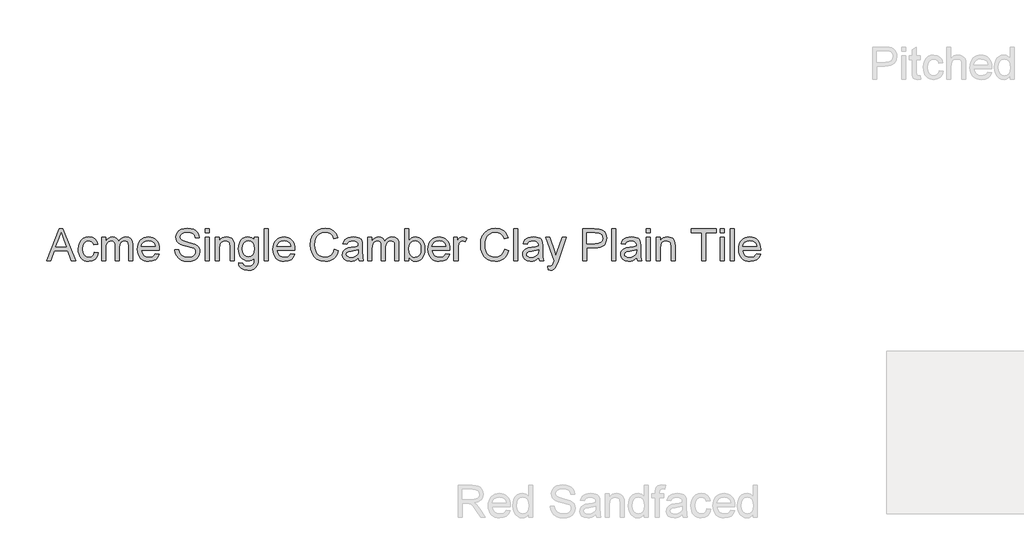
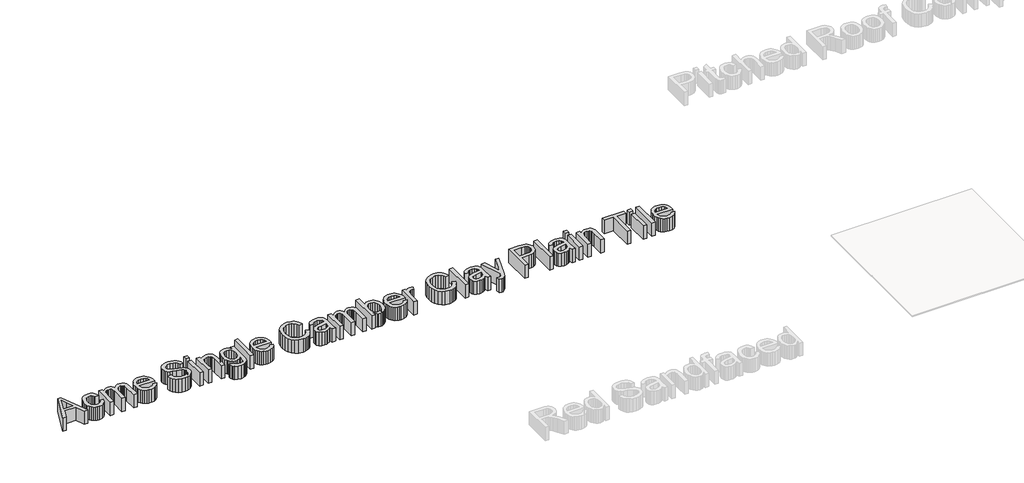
# One storey, part 5 of 6: 1 proxy.
"""IFC4 building model written with IfcOpenShell, lengths in millimetres."""

from ifc_helpers import new_model, si_unit, frame, origin, place, context, project, spatial, polyline, outline, extrude, element, save

model = new_model("IFC4")

# Units and contexts
model_context = context("Model", 3, world=origin())
ifc_project = project(units=[si_unit("LENGTHUNIT", "METRE", prefix="MILLI")], contexts=[model_context])

# Site, building, storey
site = spatial("IfcSite", under=ifc_project)
building = spatial("IfcBuilding", under=site)
storey = spatial("IfcBuildingStorey", under=building, Name="Marley Clay Plain Tile", Elevation=3000.0)

# Proxy
placement = place(None, origin())
element("IfcBuildingElementProxy", 1, Name="600mm Arial", ObjectType="600mm Arial", at=placement, inside=storey, context=model_context, shape_type="SweptSolid", body=[
    extrude(outline(polyline([(-18518.8331369, 5927.1579856), (-18400.924483, 6222.542601), (-18369.4821753, 6222.542601), (-18251.5735215, 5927.1579856), (-18290.5879446, 5927.1579856), (-18324.4100599, 6019.4656779), (-18446.0687138, 6019.4656779), (-18479.8187138, 5927.1579856), (-18518.8331369, 5927.1579856)]), holes=[polyline([(-18432.5110215, 6056.3887548), (-18337.8956369, 6056.3887548), (-18364.5062138, 6129.0089471), (-18385.2033292, 6185.619524), (-18403.5927523, 6135.355101), (-18432.5110215, 6056.3887548)])]), frame((0.0, 0.0, 3000.0), z_axis=(0.0, 0.0, 1.0), x_axis=(1.0, 0.0, 0.0)), (0.0, 0.0, 1.0), 150.0),
    extrude(outline(polyline([(-18078.2802523, 6005.619524), (-18041.3571753, 6001.0041394), (-18051.6516465, 5968.1645961), (-18070.9965984, 5943.3478894), (-18097.5711176, 5927.7439231), (-18129.5542907, 5922.542601), (-18150.2626741, 5924.3567536), (-18168.8301321, 5929.7992115), (-18185.2566645, 5938.8699748), (-18199.5422715, 5951.5690433), (-18211.1055227, 5967.6575348), (-18219.3649878, 5986.8965673), (-18224.3206669, 6009.2861406), (-18225.9725599, 6034.8262548), (-18223.1510455, 6067.6838269), (-18214.6865023, 6096.1603894), (-18200.4437138, 6119.1561827), (-18180.2874638, 6135.5714471), (-18156.1738821, 6145.4151971), (-18130.0590984, 6148.6964471), (-18098.8601801, 6144.1892356), (-18073.9172715, 6130.667601), (-18056.0236417, 6108.8526971), (-18045.9725599, 6079.4656779), (-18082.8956369, 6074.8502933), (-18089.5933532, 6090.9590673), (-18100.0230407, 6102.5065433), (-18113.6077763, 6109.4566635), (-18129.7706369, 6111.7733702), (-18153.6318148, 6107.2120721), (-18172.5711176, 6093.5281779), (-18184.9298917, 6069.9825048), (-18189.049483, 6035.8358702), (-18185.0200359, 6001.2295), (-18172.9316946, 5977.6026971), (-18154.3349398, 5963.9999327), (-18130.7802523, 5959.4656779), (-18111.6606609, 5962.2962067), (-18095.9845792, 5970.7877933), (-18084.581334, 5985.1567836), (-18078.2802523, 6005.619524)])), frame((0.0, 0.0, 3000.0), z_axis=(0.0, 0.0, 1.0), x_axis=(1.0, 0.0, 0.0)), (0.0, 0.0, 1.0), 150.0),
    extrude(outline(polyline([(-18009.049483, 5927.1579856), (-18009.049483, 6144.0810625), (-17972.1264061, 6144.0810625), (-17972.1264061, 6108.3839471), (-17961.0206369, 6124.7811827), (-17946.7417907, 6137.6267356), (-17929.7766465, 6145.9290192), (-17910.611983, 6148.6964471), (-17890.0771273, 6145.8749327), (-17873.6167907, 6137.4103894), (-17861.3211176, 6123.8617115), (-17853.2802523, 6105.7877933), (-17839.8217186, 6124.5603293), (-17824.4701561, 6137.9692836), (-17807.2255648, 6146.0146562), (-17788.0879446, 6148.6964471), (-17760.3325359, 6144.2343077), (-17739.8066946, 6130.8478894), (-17727.1234013, 6108.1766154), (-17722.8956369, 6075.8599086), (-17722.8956369, 5927.1579856), (-17759.8187138, 5927.1579856), (-17759.8187138, 6059.994524), (-17763.2441946, 6090.823851), (-17768.0578965, 6099.3244519), (-17775.6480407, 6106.0041394), (-17785.4106609, 6110.3310625), (-17796.7417907, 6111.7733702), (-17816.7447955, 6108.0774567), (-17833.0518869, 6096.9897163), (-17843.8962378, 6077.7529375), (-17847.5110215, 6049.6099086), (-17847.5110215, 5927.1579856), (-17884.4340984, 5927.1579856), (-17884.4340984, 6064.105101), (-17886.5705167, 6084.9825048), (-17892.9797715, 6099.8743317), (-17904.2568148, 6108.7986106), (-17920.9965984, 6111.7733702), (-17935.221358, 6109.7901971), (-17948.3283292, 6103.8406779), (-17959.1456369, 6094.0690433), (-17966.5014061, 6080.619524), (-17970.7201561, 6061.9596683), (-17972.1264061, 6036.557024), (-17972.1264061, 5927.1579856), (-18009.049483, 5927.1579856)])), frame((0.0, 0.0, 3000.0), z_axis=(0.0, 0.0, 1.0), x_axis=(1.0, 0.0, 0.0)), (0.0, 0.0, 1.0), 150.0),
    extrude(outline(polyline([(-17515.6360215, 5991.7733702), (-17479.4340984, 5987.1579856), (-17492.4779686, 5959.8803413), (-17513.2922715, 5939.4897163), (-17541.4082571, 5926.7793798), (-17576.3571753, 5922.542601), (-17599.2673316, 5924.3702752), (-17619.6804926, 5929.8532981), (-17637.5966585, 5938.9916695), (-17653.0158292, 5951.7853894), (-17665.4151681, 5967.8783882), (-17674.2718388, 5986.9145961), (-17679.5858412, 6008.8940132), (-17681.3571753, 6033.8166394), (-17679.5678124, 6059.5843678), (-17674.1997234, 6082.2962067), (-17665.2529085, 6101.9521562), (-17652.7273676, 6118.5522163), (-17637.3487619, 6131.7403173), (-17619.8427523, 6141.1603894), (-17600.2093388, 6146.8124327), (-17578.4485215, 6148.6964471), (-17557.3885756, 6146.8169399), (-17538.3433532, 6141.1784183), (-17521.3128544, 6131.7808822), (-17506.2970792, 6118.6243317), (-17494.0397174, 6102.0603293), (-17485.284459, 6082.4404375), (-17480.0313039, 6059.7646562), (-17478.2802523, 6034.0329856), (-17478.4965984, 6024.0810625), (-17644.4340984, 6024.0810625), (-17638.0428724, 5996.4428413), (-17623.1961176, 5976.1243317), (-17601.768834, 5963.6303413), (-17575.6360215, 5959.4656779), (-17555.9845792, 5961.3947644), (-17539.4340984, 5967.182024), (-17525.9845792, 5977.1880336), (-17515.6360215, 5991.7733702)]), holes=[polyline([(-17644.4340984, 6061.0041394), (-17515.2033292, 6061.0041394), (-17520.1973196, 6080.511351), (-17529.986983, 6094.4656779), (-17551.5134253, 6107.4464471), (-17578.5927523, 6111.7733702), (-17603.4815744, 6108.3208461), (-17624.0615023, 6097.963274), (-17638.3673917, 6081.8184423), (-17644.4340984, 6061.0041394)])]), frame((0.0, 0.0, 3000.0), z_axis=(0.0, 0.0, 1.0), x_axis=(1.0, 0.0, 0.0)), (0.0, 0.0, 1.0), 150.0),
    extrude(outline(polyline([(-17335.2033292, 6028.6964471), (-17298.2802523, 6028.6964471), (-17294.0434734, 6008.2066635), (-17286.3812138, 5991.7373125), (-17274.4280888, 5978.666399), (-17257.3187138, 5968.3719279), (-17236.4052523, 5961.6922404), (-17213.0398676, 5959.4656779), (-17192.4689542, 5961.151375), (-17174.4581369, 5966.2084663), (-17159.8637859, 5974.213274), (-17149.5422715, 5984.7421202), (-17143.4034494, 5996.8304615), (-17141.3571753, 6009.5137548), (-17142.8896273, 6021.8725288), (-17147.486983, 6032.5546202), (-17156.8259253, 6041.6682019), (-17172.5831369, 6049.3214471), (-17226.3451561, 6063.4200048), (-17261.6366224, 6072.7499327), (-17284.2177523, 6081.6291394), (-17302.5981609, 6094.0510144), (-17315.6240023, 6109.105101), (-17323.3854205, 6126.4668798), (-17325.9725599, 6145.8118317), (-17322.7724398, 6167.4374327), (-17313.1720792, 6187.6026971), (-17297.4238821, 6204.6940433), (-17275.7802523, 6217.0978894), (-17249.8006849, 6224.6429615), (-17221.0446753, 6227.1579856), (-17189.8908292, 6224.525774), (-17162.6312138, 6216.6291394), (-17140.2393869, 6203.6303413), (-17123.6889061, 6185.6916394), (-17113.2141465, 6163.9308221), (-17109.049483, 6139.4656779), (-17145.9725599, 6139.4656779), (-17152.7514061, 6161.4969279), (-17166.8860215, 6177.3983702), (-17188.971358, 6187.025774), (-17219.6023676, 6190.2349086), (-17250.9545311, 6187.0618317), (-17272.4629446, 6177.542601), (-17284.9028484, 6163.5341875), (-17289.049483, 6146.8935625), (-17286.1107811, 6132.7048606), (-17277.2946753, 6121.292601), (-17256.4533292, 6111.088274), (-17217.0062138, 6100.667601), (-17151.6696753, 6082.1339471), (-17130.6209974, 6068.7385144), (-17115.9365023, 6052.2060625), (-17107.3096994, 6032.7168798), (-17104.4340984, 6010.4512548), (-17107.7423917, 5987.6898365), (-17117.6672715, 5966.2805817), (-17133.8030888, 5947.855101), (-17155.7441946, 5934.0450048), (-17182.1294109, 5925.4182019), (-17211.5975599, 5922.542601), (-17247.7724398, 5925.6435625), (-17277.5470792, 5934.9464471), (-17301.2640263, 5950.4873125), (-17319.2658292, 5972.3022163), (-17330.8223196, 5998.8767356), (-17335.2033292, 6028.6964471)])), frame((0.0, 0.0, 3000.0), z_axis=(0.0, 0.0, 1.0), x_axis=(1.0, 0.0, 0.0)), (0.0, 0.0, 1.0), 150.0),
    extrude(outline(polyline([(-17053.6648676, 5927.1579856), (-17053.6648676, 6144.0810625), (-17016.7417907, 6144.0810625), (-17016.7417907, 5927.1579856), (-17053.6648676, 5927.1579856)])), frame((0.0, 0.0, 3000.0), z_axis=(0.0, 0.0, 1.0), x_axis=(1.0, 0.0, 0.0)), (0.0, 0.0, 1.0), 150.0),
    extrude(outline(polyline([(-17053.6648676, 6185.619524), (-17053.6648676, 6222.542601), (-17016.7417907, 6222.542601), (-17016.7417907, 6185.619524), (-17053.6648676, 6185.619524)])), frame((0.0, 0.0, 3000.0), z_axis=(0.0, 0.0, 1.0), x_axis=(1.0, 0.0, 0.0)), (0.0, 0.0, 1.0), 150.0),
    extrude(outline(polyline([(-16961.3571753, 5927.1579856), (-16961.3571753, 6144.0810625), (-16924.4340984, 6144.0810625), (-16924.4340984, 6113.792601), (-16911.6065744, 6129.0630336), (-16896.2009253, 6139.9704856), (-16878.2171513, 6146.5149567), (-16857.6552523, 6148.6964471), (-16839.4551321, 6146.9386346), (-16822.7874638, 6141.6651971), (-16808.8872234, 6133.5341875), (-16798.9893869, 6123.2036586), (-16787.9196753, 6096.0522163), (-16785.9725599, 6060.355101), (-16785.9725599, 5927.1579856), (-16822.8956369, 5927.1579856), (-16822.8956369, 6055.3791394), (-16827.1504446, 6088.0474086), (-16833.0368628, 6097.7739711), (-16842.1865023, 6105.3190433), (-16853.9142667, 6110.1597885), (-16867.5350599, 6111.7733702), (-16889.1606609, 6108.1495721), (-16907.5951561, 6097.2781779), (-16914.9621934, 6088.4034784), (-16920.2243628, 6076.2745721), (-16924.4340984, 6042.2541394), (-16924.4340984, 5927.1579856), (-16961.3571753, 5927.1579856)])), frame((0.0, 0.0, 3000.0), z_axis=(0.0, 0.0, 1.0), x_axis=(1.0, 0.0, 0.0)), (0.0, 0.0, 1.0), 150.0),
    extrude(outline(polyline([(-16744.4340984, 5908.6964471), (-16707.5110215, 5904.0810625), (-16703.4365023, 5892.542601), (-16695.5398676, 5884.6099086), (-16680.0170311, 5878.4440433), (-16659.6985215, 5876.3887548), (-16638.0278484, 5878.714476), (-16621.9100599, 5885.6916394), (-16610.7321753, 5896.869524), (-16603.8812138, 5911.7974086), (-16601.3571753, 5954.8502933), (-16613.643834, 5942.7349086), (-16627.3547715, 5934.0810625), (-16642.4899878, 5928.8887548), (-16659.049483, 5927.1579856), (-16679.2936237, 5929.1727091), (-16697.1173917, 5935.2168798), (-16712.5207871, 5945.2904976), (-16725.5038099, 5959.3935625), (-16735.8050419, 5976.3136346), (-16743.1630648, 5994.838274), (-16749.049483, 6036.7012548), (-16746.4082571, 6066.5119519), (-16738.4845792, 6093.9248125), (-16725.5578965, 6117.1549808), (-16707.9076561, 6134.417601), (-16686.1378244, 6145.1267356), (-16660.8523676, 6148.6964471), (-16643.5852402, 6146.6772163), (-16627.9136657, 6140.619524), (-16613.8376441, 6130.5233702), (-16601.3571753, 6116.3887548), (-16601.3571753, 6144.0810625), (-16564.4340984, 6144.0810625), (-16564.4340984, 5956.7974086), (-16566.9581369, 5913.5552211), (-16574.5302523, 5885.0786586), (-16587.5741224, 5866.1934423), (-16606.5134253, 5851.7252933), (-16630.9334974, 5842.5305817), (-16660.4196753, 5839.4656779), (-16694.7736417, 5843.7835865), (-16721.8259253, 5856.7373125), (-16732.014477, 5866.4616214), (-16739.1786898, 5878.3629135), (-16743.3185636, 5892.4411887), (-16744.4340984, 5908.6964471)]), holes=[polyline([(-16712.1264061, 6039.2252933), (-16708.1871032, 6005.3581058), (-16696.3691946, 5982.073851), (-16678.6017667, 5968.5792596), (-16656.8139061, 5964.0810625), (-16635.1883051, 5968.5522163), (-16617.330733, 5981.9656779), (-16605.3505648, 6004.9524567), (-16601.3571753, 6038.1435625), (-16605.4677523, 6070.1537788), (-16617.799483, 6093.2036586), (-16635.9184734, 6107.1309423), (-16657.3908292, 6111.7733702), (-16678.4755648, 6107.2030577), (-16696.1528484, 6093.4921202), (-16708.1330167, 6070.7847885), (-16712.1264061, 6039.2252933)])]), frame((0.0, 0.0, 3000.0), z_axis=(0.0, 0.0, 1.0), x_axis=(1.0, 0.0, 0.0)), (0.0, 0.0, 1.0), 150.0),
    extrude(outline(polyline([(-16509.049483, 5927.1579856), (-16509.049483, 6222.542601), (-16472.1264061, 6222.542601), (-16472.1264061, 5927.1579856), (-16509.049483, 5927.1579856)])), frame((0.0, 0.0, 3000.0), z_axis=(0.0, 0.0, 1.0), x_axis=(1.0, 0.0, 0.0)), (0.0, 0.0, 1.0), 150.0),
    extrude(outline(polyline([(-16264.8667907, 5991.7733702), (-16228.6648676, 5987.1579856), (-16241.7087378, 5959.8803413), (-16262.5230407, 5939.4897163), (-16290.6390263, 5926.7793798), (-16325.5879446, 5922.542601), (-16348.4981008, 5924.3702752), (-16368.9112619, 5929.8532981), (-16386.8274277, 5938.9916695), (-16402.2465984, 5951.7853894), (-16414.6459374, 5967.8783882), (-16423.502608, 5986.9145961), (-16428.8166104, 6008.8940132), (-16430.5879446, 6033.8166394), (-16428.7985816, 6059.5843678), (-16423.4304926, 6082.2962067), (-16414.4836777, 6101.9521562), (-16401.9581369, 6118.5522163), (-16386.5795311, 6131.7403173), (-16369.0735215, 6141.1603894), (-16349.440108, 6146.8124327), (-16327.6792907, 6148.6964471), (-16306.6193448, 6146.8169399), (-16287.5741224, 6141.1784183), (-16270.5436237, 6131.7808822), (-16255.5278484, 6118.6243317), (-16243.2704866, 6102.0603293), (-16234.5152282, 6082.4404375), (-16229.2620732, 6059.7646562), (-16227.5110215, 6034.0329856), (-16227.7273676, 6024.0810625), (-16393.6648676, 6024.0810625), (-16387.2736417, 5996.4428413), (-16372.4268869, 5976.1243317), (-16350.9996032, 5963.6303413), (-16324.8667907, 5959.4656779), (-16305.2153484, 5961.3947644), (-16288.6648676, 5967.182024), (-16275.2153484, 5977.1880336), (-16264.8667907, 5991.7733702)]), holes=[polyline([(-16393.6648676, 6061.0041394), (-16264.4340984, 6061.0041394), (-16269.4280888, 6080.511351), (-16279.2177523, 6094.4656779), (-16300.7441946, 6107.4464471), (-16327.8235215, 6111.7733702), (-16352.7123436, 6108.3208461), (-16373.2922715, 6097.963274), (-16387.5981609, 6081.8184423), (-16393.6648676, 6061.0041394)])]), frame((0.0, 0.0, 3000.0), z_axis=(0.0, 0.0, 1.0), x_axis=(1.0, 0.0, 0.0)), (0.0, 0.0, 1.0), 150.0),
    extrude(outline(polyline([(-15862.8956369, 6032.1579856), (-15825.9725599, 6022.6387548), (-15833.2787499, 5999.6767656), (-15843.0098196, 5979.6129135), (-15855.1657691, 5962.4471983), (-15869.7465984, 5948.1796202), (-15886.4232811, 5936.9634243), (-15904.8667907, 5928.9518558), (-15925.0771273, 5924.1449147), (-15947.0542907, 5922.542601), (-15989.8818148, 5927.3923606), (-16023.893233, 5941.9416394), (-16049.9629446, 5965.6856298), (-16068.9653484, 5998.119524), (-16080.5669109, 6036.2505336), (-16084.4340984, 6077.0858702), (-16080.0621032, 6120.1567836), (-16066.9461176, 6157.3502933), (-16045.7712378, 6187.4855096), (-16017.2225599, 6209.3815433), (-15983.3643869, 6222.713875), (-15946.2610215, 6227.1579856), (-15905.7772474, 6221.4067836), (-15888.1653184, 6214.2177812), (-15872.3066946, 6204.1531779), (-15858.4627943, 6191.478899), (-15846.8950359, 6176.4608702), (-15830.5879446, 6139.3935625), (-15867.5110215, 6130.5954856), (-15880.3115023, 6157.5215673), (-15897.799483, 6175.9921202), (-15920.1913099, 6186.6742115), (-15947.7033292, 6190.2349086), (-15979.4160696, 6186.2865913), (-16005.4677523, 6174.4416394), (-16025.2363821, 6155.9440433), (-16038.0999638, 6132.0377933), (-16045.1582571, 6105.0125529), (-16047.5110215, 6077.1579856), (-16044.7255648, 6043.0474086), (-16036.3691946, 6013.5522163), (-16022.1264061, 5989.7992115), (-16001.6816946, 5972.9151971), (-15977.1714782, 5962.8280577), (-15950.7321753, 5959.4656779), (-15919.9118628, 5964.0450048), (-15894.2297715, 5977.7829856), (-15874.8397474, 6000.5353894), (-15862.8956369, 6032.1579856)])), frame((0.0, 0.0, 3000.0), z_axis=(0.0, 0.0, 1.0), x_axis=(1.0, 0.0, 0.0)), (0.0, 0.0, 1.0), 150.0),
    extrude(outline(polyline([(-15641.3571753, 5954.8502933), (-15658.9984013, 5939.7240913), (-15677.1624638, 5929.8262548), (-15696.2640263, 5924.3635144), (-15716.7177523, 5922.542601), (-15747.5741224, 5926.9236106), (-15770.3355407, 5940.0666394), (-15784.3709974, 5960.0245721), (-15789.049483, 5984.8502933), (-15787.2826561, 6000.1567836), (-15781.9821753, 6014.057024), (-15773.8060936, 6025.9560625), (-15763.4124638, 6035.2589471), (-15737.5590984, 6047.3743317), (-15705.611983, 6052.9272163), (-15667.8595792, 6058.7685625), (-15641.5735215, 6065.619524), (-15641.3571753, 6073.8406779), (-15643.8992426, 6090.3190433), (-15651.5254446, 6101.1002933), (-15668.580733, 6109.105101), (-15692.3427523, 6111.7733702), (-15714.3379446, 6109.9975288), (-15729.6985215, 6104.6700048), (-15740.1732811, 6094.8172404), (-15747.5110215, 6079.4656779), (-15784.4340984, 6084.0810625), (-15778.0248436, 6104.2733702), (-15768.4605407, 6120.1387548), (-15754.8487619, 6132.2721683), (-15736.2970792, 6141.2685625), (-15713.6077763, 6146.839476), (-15687.5831369, 6148.6964471), (-15662.6221994, 6147.0558221), (-15642.8355407, 6142.1339471), (-15627.9166705, 6134.7331058), (-15617.5590984, 6125.6555817), (-15610.690108, 6114.432625), (-15606.236983, 6100.5954856), (-15604.4340984, 6068.2877933), (-15604.4340984, 6022.3502933), (-15602.5590984, 5958.2036586), (-15595.2033292, 5927.1579856), (-15632.1264061, 5927.1579856), (-15641.3571753, 5954.8502933)]), holes=[polyline([(-15641.3571753, 6028.6964471), (-15700.924483, 6017.3743317), (-15732.6913099, 6011.3887548), (-15747.0783292, 6001.6531779), (-15752.1264061, 5987.4464471), (-15749.3770071, 5976.4668798), (-15741.1288099, 5967.4704856), (-15727.5621032, 5961.4668798), (-15708.8571753, 5959.4656779), (-15689.0254446, 5961.6742115), (-15671.5014061, 5968.2998125), (-15657.2946753, 5978.0624327), (-15647.4148676, 5989.682024), (-15643.033858, 6001.6531779), (-15641.5735215, 6018.2397163), (-15641.3571753, 6028.6964471)])]), frame((0.0, 0.0, 3000.0), z_axis=(0.0, 0.0, 1.0), x_axis=(1.0, 0.0, 0.0)), (0.0, 0.0, 1.0), 150.0),
    extrude(outline(polyline([(-15553.6648676, 5927.1579856), (-15553.6648676, 6144.0810625), (-15516.7417907, 6144.0810625), (-15516.7417907, 6108.3839471), (-15505.6360215, 6124.7811827), (-15491.3571753, 6137.6267356), (-15474.3920311, 6145.9290192), (-15455.2273676, 6148.6964471), (-15434.6925119, 6145.8749327), (-15418.2321753, 6137.4103894), (-15405.9365023, 6123.8617115), (-15397.8956369, 6105.7877933), (-15384.4371032, 6124.5603293), (-15369.0855407, 6137.9692836), (-15351.8409494, 6146.0146562), (-15332.7033292, 6148.6964471), (-15304.9479205, 6144.2343077), (-15284.4220792, 6130.8478894), (-15271.7387859, 6108.1766154), (-15267.5110215, 6075.8599086), (-15267.5110215, 5927.1579856), (-15304.4340984, 5927.1579856), (-15304.4340984, 6059.994524), (-15307.8595792, 6090.823851), (-15312.6732811, 6099.3244519), (-15320.2634253, 6106.0041394), (-15330.0260455, 6110.3310625), (-15341.3571753, 6111.7733702), (-15361.3601801, 6108.0774567), (-15377.6672715, 6096.9897163), (-15388.5116224, 6077.7529375), (-15392.1264061, 6049.6099086), (-15392.1264061, 5927.1579856), (-15429.049483, 5927.1579856), (-15429.049483, 6064.105101), (-15431.1859013, 6084.9825048), (-15437.5951561, 6099.8743317), (-15448.8721994, 6108.7986106), (-15465.611983, 6111.7733702), (-15479.8367426, 6109.7901971), (-15492.9437138, 6103.8406779), (-15503.7610215, 6094.0690433), (-15511.1167907, 6080.619524), (-15515.3355407, 6061.9596683), (-15516.7417907, 6036.557024), (-15516.7417907, 5927.1579856), (-15553.6648676, 5927.1579856)])), frame((0.0, 0.0, 3000.0), z_axis=(0.0, 0.0, 1.0), x_axis=(1.0, 0.0, 0.0)), (0.0, 0.0, 1.0), 150.0),
    extrude(outline(polyline([(-15175.2033292, 5927.1579856), (-15212.1264061, 5927.1579856), (-15212.1264061, 6222.542601), (-15175.2033292, 6222.542601), (-15175.2033292, 6112.9993317), (-15163.0609013, 6128.6168197), (-15149.3499638, 6139.7721683), (-15134.0705167, 6146.4653774), (-15117.2225599, 6148.6964471), (-15098.2021273, 6146.6862308), (-15080.2273676, 6140.6555817), (-15064.3259253, 6130.9831058), (-15051.5254446, 6118.0474086), (-15041.4923917, 6101.9746923), (-15033.893233, 6082.8911586), (-15029.1065744, 6061.5900769), (-15027.5110215, 6038.8647163), (-15029.1629145, 6012.6417596), (-15034.1185936, 5989.573851), (-15042.3780587, 5969.6609904), (-15053.9413099, 5952.9031779), (-15067.8212679, 5939.6204255), (-15083.0308532, 5930.1327452), (-15099.570066, 5924.440137), (-15117.4389061, 5922.542601), (-15134.8412499, 5924.9900168), (-15150.2694349, 5932.3322644), (-15163.7234614, 5944.5693437), (-15175.2033292, 5961.7012548), (-15175.2033292, 5927.1579856)]), holes=[polyline([(-15175.2033292, 6037.1339471), (-15172.6792907, 6006.3406779), (-15165.1071753, 5985.4993317), (-15156.1603604, 5974.1096082), (-15145.7622234, 5965.9740913), (-15133.9127643, 5961.0927812), (-15120.611983, 5959.4656779), (-15099.3018869, 5964.261351), (-15081.0927523, 5978.6483702), (-15068.5987619, 6002.5365913), (-15064.4340984, 6035.8358702), (-15068.4274878, 6069.6219279), (-15080.4076561, 6093.2397163), (-15098.0488821, 6107.1399567), (-15119.0254446, 6111.7733702), (-15140.3355407, 6106.9776971), (-15158.5446753, 6092.5906779), (-15171.0386657, 6069.135149), (-15175.2033292, 6037.1339471)])]), frame((0.0, 0.0, 3000.0), z_axis=(0.0, 0.0, 1.0), x_axis=(1.0, 0.0, 0.0)), (0.0, 0.0, 1.0), 150.0),
    extrude(outline(polyline([(-14834.0975599, 5991.7733702), (-14797.8956369, 5987.1579856), (-14810.9395071, 5959.8803413), (-14831.7538099, 5939.4897163), (-14859.8697955, 5926.7793798), (-14894.8187138, 5922.542601), (-14917.72887, 5924.3702752), (-14938.1420311, 5929.8532981), (-14956.058197, 5938.9916695), (-14971.4773676, 5951.7853894), (-14983.8767066, 5967.8783882), (-14992.7333773, 5986.9145961), (-14998.0473797, 6008.8940132), (-14999.8187138, 6033.8166394), (-14998.0293508, 6059.5843678), (-14992.6612619, 6082.2962067), (-14983.714447, 6101.9521562), (-14971.1889061, 6118.5522163), (-14955.8103003, 6131.7403173), (-14938.3042907, 6141.1603894), (-14918.6708773, 6146.8124327), (-14896.9100599, 6148.6964471), (-14875.850114, 6146.8169399), (-14856.8048917, 6141.1784183), (-14839.7743929, 6131.7808822), (-14824.7586176, 6118.6243317), (-14812.5012559, 6102.0603293), (-14803.7459974, 6082.4404375), (-14798.4928424, 6059.7646562), (-14796.7417907, 6034.0329856), (-14796.9581369, 6024.0810625), (-14962.8956369, 6024.0810625), (-14956.5044109, 5996.4428413), (-14941.6576561, 5976.1243317), (-14920.2303724, 5963.6303413), (-14894.0975599, 5959.4656779), (-14874.4461176, 5961.3947644), (-14857.8956369, 5967.182024), (-14844.4461176, 5977.1880336), (-14834.0975599, 5991.7733702)]), holes=[polyline([(-14962.8956369, 6061.0041394), (-14833.6648676, 6061.0041394), (-14838.658858, 6080.511351), (-14848.4485215, 6094.4656779), (-14869.9749638, 6107.4464471), (-14897.0542907, 6111.7733702), (-14921.9431128, 6108.3208461), (-14942.5230407, 6097.963274), (-14956.8289301, 6081.8184423), (-14962.8956369, 6061.0041394)])]), frame((0.0, 0.0, 3000.0), z_axis=(0.0, 0.0, 1.0), x_axis=(1.0, 0.0, 0.0)), (0.0, 0.0, 1.0), 150.0),
    extrude(outline(polyline([(-14759.8187138, 5927.1579856), (-14759.8187138, 6144.0810625), (-14727.5110215, 6144.0810625), (-14727.5110215, 6111.9897163), (-14715.5759253, 6130.5954856), (-14704.5783292, 6141.557024), (-14693.5446753, 6146.9115913), (-14681.5014061, 6148.6964471), (-14663.111983, 6145.8478894), (-14644.4340984, 6137.3022163), (-14656.7658292, 6104.2012548), (-14669.7465984, 6109.8803413), (-14682.7273676, 6111.7733702), (-14693.7520071, 6109.9524567), (-14703.6047715, 6104.4897163), (-14711.5645071, 6095.7998125), (-14716.9100599, 6084.2974086), (-14721.3992426, 6063.6724086), (-14722.8956369, 6041.1724086), (-14722.8956369, 5927.1579856), (-14759.8187138, 5927.1579856)])), frame((0.0, 0.0, 3000.0), z_axis=(0.0, 0.0, 1.0), x_axis=(1.0, 0.0, 0.0)), (0.0, 0.0, 1.0), 150.0),
    extrude(outline(polyline([(-14293.6648676, 6032.1579856), (-14256.7417907, 6022.6387548), (-14264.0479806, 5999.6767656), (-14273.7790503, 5979.6129135), (-14285.9349999, 5962.4471983), (-14300.5158292, 5948.1796202), (-14317.1925119, 5936.9634243), (-14335.6360215, 5928.9518558), (-14355.846358, 5924.1449147), (-14377.8235215, 5922.542601), (-14420.6510455, 5927.3923606), (-14454.6624638, 5941.9416394), (-14480.7321753, 5965.6856298), (-14499.7345792, 5998.119524), (-14511.3361417, 6036.2505336), (-14515.2033292, 6077.0858702), (-14510.831334, 6120.1567836), (-14497.7153484, 6157.3502933), (-14476.5404686, 6187.4855096), (-14447.9917907, 6209.3815433), (-14414.1336176, 6222.713875), (-14377.0302523, 6227.1579856), (-14336.5464782, 6221.4067836), (-14318.9345491, 6214.2177812), (-14303.0759253, 6204.1531779), (-14289.2320251, 6191.478899), (-14277.6642667, 6176.4608702), (-14261.3571753, 6139.3935625), (-14298.2802523, 6130.5954856), (-14311.080733, 6157.5215673), (-14328.5687138, 6175.9921202), (-14350.9605407, 6186.6742115), (-14378.4725599, 6190.2349086), (-14410.1853003, 6186.2865913), (-14436.236983, 6174.4416394), (-14456.0056128, 6155.9440433), (-14468.8691946, 6132.0377933), (-14475.9274878, 6105.0125529), (-14478.2802523, 6077.1579856), (-14475.4947955, 6043.0474086), (-14467.1384253, 6013.5522163), (-14452.8956369, 5989.7992115), (-14432.4509253, 5972.9151971), (-14407.940709, 5962.8280577), (-14381.5014061, 5959.4656779), (-14350.6810936, 5964.0450048), (-14324.9990023, 5977.7829856), (-14305.6089782, 6000.5353894), (-14293.6648676, 6032.1579856)])), frame((0.0, 0.0, 3000.0), z_axis=(0.0, 0.0, 1.0), x_axis=(1.0, 0.0, 0.0)), (0.0, 0.0, 1.0), 150.0),
    extrude(outline(polyline([(-14210.5879446, 5927.1579856), (-14210.5879446, 6222.542601), (-14173.6648676, 6222.542601), (-14173.6648676, 5927.1579856), (-14210.5879446, 5927.1579856)])), frame((0.0, 0.0, 3000.0), z_axis=(0.0, 0.0, 1.0), x_axis=(1.0, 0.0, 0.0)), (0.0, 0.0, 1.0), 150.0),
    extrude(outline(polyline([(-13979.8187138, 5954.8502933), (-13997.4599398, 5939.7240913), (-14015.6240023, 5929.8262548), (-14034.7255648, 5924.3635144), (-14055.1792907, 5922.542601), (-14086.0356609, 5926.9236106), (-14108.7970792, 5940.0666394), (-14122.8325359, 5960.0245721), (-14127.5110215, 5984.8502933), (-14125.7441946, 6000.1567836), (-14120.4437138, 6014.057024), (-14112.2676321, 6025.9560625), (-14101.8740023, 6035.2589471), (-14076.0206369, 6047.3743317), (-14044.0735215, 6052.9272163), (-14006.3211176, 6058.7685625), (-13980.0350599, 6065.619524), (-13979.8187138, 6073.8406779), (-13982.3607811, 6090.3190433), (-13989.986983, 6101.1002933), (-14007.0422715, 6109.105101), (-14030.8042907, 6111.7733702), (-14052.799483, 6109.9975288), (-14068.1600599, 6104.6700048), (-14078.6348196, 6094.8172404), (-14085.9725599, 6079.4656779), (-14122.8956369, 6084.0810625), (-14116.4863821, 6104.2733702), (-14106.9220792, 6120.1387548), (-14093.3103003, 6132.2721683), (-14074.7586176, 6141.2685625), (-14052.0693148, 6146.839476), (-14026.0446753, 6148.6964471), (-14001.0837378, 6147.0558221), (-13981.2970792, 6142.1339471), (-13966.378209, 6134.7331058), (-13956.0206369, 6125.6555817), (-13949.1516465, 6114.432625), (-13944.6985215, 6100.5954856), (-13942.8956369, 6068.2877933), (-13942.8956369, 6022.3502933), (-13941.0206369, 5958.2036586), (-13933.6648676, 5927.1579856), (-13970.5879446, 5927.1579856), (-13979.8187138, 5954.8502933)]), holes=[polyline([(-13979.8187138, 6028.6964471), (-14039.3860215, 6017.3743317), (-14071.1528484, 6011.3887548), (-14085.5398676, 6001.6531779), (-14090.5879446, 5987.4464471), (-14087.8385455, 5976.4668798), (-14079.5903484, 5967.4704856), (-14066.0236417, 5961.4668798), (-14047.3187138, 5959.4656779), (-14027.486983, 5961.6742115), (-14009.9629446, 5968.2998125), (-13995.7562138, 5978.0624327), (-13985.8764061, 5989.682024), (-13981.4953965, 6001.6531779), (-13980.0350599, 6018.2397163), (-13979.8187138, 6028.6964471)])]), frame((0.0, 0.0, 3000.0), z_axis=(0.0, 0.0, 1.0), x_axis=(1.0, 0.0, 0.0)), (0.0, 0.0, 1.0), 150.0),
    extrude(outline(polyline([(-13892.1264061, 5844.0810625), (-13896.7417907, 5879.6339471), (-13877.9917907, 5876.3887548), (-13860.4677523, 5880.463274), (-13849.7225599, 5891.8214471), (-13839.6264061, 5919.0089471), (-13836.7417907, 5927.9512548), (-13915.2033292, 6144.0810625), (-13876.2610215, 6144.0810625), (-13834.6504446, 6023.6483702), (-13820.1552523, 5975.4752933), (-13805.6600599, 6018.0233702), (-13762.8956369, 6144.0810625), (-13724.2417907, 6144.0810625), (-13799.7465984, 5921.9656779), (-13819.361983, 5873.792601), (-13829.4040503, 5858.4139952), (-13840.7802523, 5847.7589471), (-13853.9953965, 5841.5389952), (-13869.5542907, 5839.4656779), (-13892.1264061, 5844.0810625)])), frame((0.0, 0.0, 3000.0), z_axis=(0.0, 0.0, 1.0), x_axis=(1.0, 0.0, 0.0)), (0.0, 0.0, 1.0), 150.0),
    extrude(outline(polyline([(-13573.6648676, 5927.1579856), (-13573.6648676, 6222.542601), (-13464.1937138, 6222.542601), (-13420.0590984, 6219.730101), (-13400.3806128, 6214.4746923), (-13384.1816946, 6205.9200048), (-13371.1378244, 6193.6784183), (-13360.924483, 6177.3623125), (-13354.3259253, 6158.1165192), (-13352.1264061, 6137.0858702), (-13358.0669109, 6102.2721683), (-13365.4925419, 6087.0423005), (-13375.8884253, 6073.2637548), (-13390.1605107, 6061.8424808), (-13409.2147474, 6053.6844279), (-13433.0511357, 6048.7895961), (-13461.6696753, 6047.1579856), (-13536.7417907, 6047.1579856), (-13536.7417907, 5927.1579856), (-13573.6648676, 5927.1579856)]), holes=[polyline([(-13536.7417907, 6084.0810625), (-13459.5062138, 6084.0810625), (-13426.7658292, 6087.4704856), (-13405.1312138, 6097.6387548), (-13393.0699157, 6113.9548606), (-13389.049483, 6135.7877933), (-13391.4202763, 6152.3743317), (-13398.5326561, 6166.3647163), (-13409.503209, 6176.8935625), (-13423.4485215, 6183.0954856), (-13460.3715984, 6185.619524), (-13536.7417907, 6185.619524), (-13536.7417907, 6084.0810625)])]), frame((0.0, 0.0, 3000.0), z_axis=(0.0, 0.0, 1.0), x_axis=(1.0, 0.0, 0.0)), (0.0, 0.0, 1.0), 150.0),
    extrude(outline(polyline([(-13305.9725599, 5927.1579856), (-13305.9725599, 6222.542601), (-13269.049483, 6222.542601), (-13269.049483, 5927.1579856), (-13305.9725599, 5927.1579856)])), frame((0.0, 0.0, 3000.0), z_axis=(0.0, 0.0, 1.0), x_axis=(1.0, 0.0, 0.0)), (0.0, 0.0, 1.0), 150.0),
    extrude(outline(polyline([(-13075.2033292, 5954.8502933), (-13092.8445551, 5939.7240913), (-13111.0086176, 5929.8262548), (-13130.1101801, 5924.3635144), (-13150.5639061, 5922.542601), (-13181.4202763, 5926.9236106), (-13204.1816946, 5940.0666394), (-13218.2171513, 5960.0245721), (-13222.8956369, 5984.8502933), (-13221.1288099, 6000.1567836), (-13215.8283292, 6014.057024), (-13207.6522474, 6025.9560625), (-13197.2586176, 6035.2589471), (-13171.4052523, 6047.3743317), (-13139.4581369, 6052.9272163), (-13101.705733, 6058.7685625), (-13075.4196753, 6065.619524), (-13075.2033292, 6073.8406779), (-13077.7453965, 6090.3190433), (-13085.3715984, 6101.1002933), (-13102.4268869, 6109.105101), (-13126.1889061, 6111.7733702), (-13148.1840984, 6109.9975288), (-13163.5446753, 6104.6700048), (-13174.0194349, 6094.8172404), (-13181.3571753, 6079.4656779), (-13218.2802523, 6084.0810625), (-13211.8709974, 6104.2733702), (-13202.3066946, 6120.1387548), (-13188.6949157, 6132.2721683), (-13170.143233, 6141.2685625), (-13147.4539301, 6146.839476), (-13121.4292907, 6148.6964471), (-13096.4683532, 6147.0558221), (-13076.6816946, 6142.1339471), (-13061.7628244, 6134.7331058), (-13051.4052523, 6125.6555817), (-13044.5362619, 6114.432625), (-13040.0831369, 6100.5954856), (-13038.2802523, 6068.2877933), (-13038.2802523, 6022.3502933), (-13036.4052523, 5958.2036586), (-13029.049483, 5927.1579856), (-13065.9725599, 5927.1579856), (-13075.2033292, 5954.8502933)]), holes=[polyline([(-13075.2033292, 6028.6964471), (-13134.7706369, 6017.3743317), (-13166.5374638, 6011.3887548), (-13180.924483, 6001.6531779), (-13185.9725599, 5987.4464471), (-13183.2231609, 5976.4668798), (-13174.9749638, 5967.4704856), (-13161.4082571, 5961.4668798), (-13142.7033292, 5959.4656779), (-13122.8715984, 5961.6742115), (-13105.3475599, 5968.2998125), (-13091.1408292, 5978.0624327), (-13081.2610215, 5989.682024), (-13076.8800119, 6001.6531779), (-13075.4196753, 6018.2397163), (-13075.2033292, 6028.6964471)])]), frame((0.0, 0.0, 3000.0), z_axis=(0.0, 0.0, 1.0), x_axis=(1.0, 0.0, 0.0)), (0.0, 0.0, 1.0), 150.0),
    extrude(outline(polyline([(-12987.5110215, 5927.1579856), (-12987.5110215, 6144.0810625), (-12950.5879446, 6144.0810625), (-12950.5879446, 5927.1579856), (-12987.5110215, 5927.1579856)])), frame((0.0, 0.0, 3000.0), z_axis=(0.0, 0.0, 1.0), x_axis=(1.0, 0.0, 0.0)), (0.0, 0.0, 1.0), 150.0),
    extrude(outline(polyline([(-12987.5110215, 6185.619524), (-12987.5110215, 6222.542601), (-12950.5879446, 6222.542601), (-12950.5879446, 6185.619524), (-12987.5110215, 6185.619524)])), frame((0.0, 0.0, 3000.0), z_axis=(0.0, 0.0, 1.0), x_axis=(1.0, 0.0, 0.0)), (0.0, 0.0, 1.0), 150.0),
    extrude(outline(polyline([(-12895.2033292, 5927.1579856), (-12895.2033292, 6144.0810625), (-12858.2802523, 6144.0810625), (-12858.2802523, 6113.792601), (-12845.4527282, 6129.0630336), (-12830.0470792, 6139.9704856), (-12812.0633051, 6146.5149567), (-12791.5014061, 6148.6964471), (-12773.3012859, 6146.9386346), (-12756.6336176, 6141.6651971), (-12742.7333773, 6133.5341875), (-12732.8355407, 6123.2036586), (-12721.7658292, 6096.0522163), (-12719.8187138, 6060.355101), (-12719.8187138, 5927.1579856), (-12756.7417907, 5927.1579856), (-12756.7417907, 6055.3791394), (-12760.9965984, 6088.0474086), (-12766.8830167, 6097.7739711), (-12776.0326561, 6105.3190433), (-12787.7604205, 6110.1597885), (-12801.3812138, 6111.7733702), (-12823.0068148, 6108.1495721), (-12841.4413099, 6097.2781779), (-12848.8083472, 6088.4034784), (-12854.0705167, 6076.2745721), (-12858.2802523, 6042.2541394), (-12858.2802523, 5927.1579856), (-12895.2033292, 5927.1579856)])), frame((0.0, 0.0, 3000.0), z_axis=(0.0, 0.0, 1.0), x_axis=(1.0, 0.0, 0.0)), (0.0, 0.0, 1.0), 150.0),
    extrude(outline(polyline([(-12475.2033292, 5927.1579856), (-12475.2033292, 6185.619524), (-12572.1264061, 6185.619524), (-12572.1264061, 6222.542601), (-12341.3571753, 6222.542601), (-12341.3571753, 6185.619524), (-12438.2802523, 6185.619524), (-12438.2802523, 5927.1579856), (-12475.2033292, 5927.1579856)])), frame((0.0, 0.0, 3000.0), z_axis=(0.0, 0.0, 1.0), x_axis=(1.0, 0.0, 0.0)), (0.0, 0.0, 1.0), 150.0),
    extrude(outline(polyline([(-12304.4340984, 6185.619524), (-12304.4340984, 6222.542601), (-12267.5110215, 6222.542601), (-12267.5110215, 6185.619524), (-12304.4340984, 6185.619524)])), frame((0.0, 0.0, 3000.0), z_axis=(0.0, 0.0, 1.0), x_axis=(1.0, 0.0, 0.0)), (0.0, 0.0, 1.0), 150.0),
    extrude(outline(polyline([(-12304.4340984, 5927.1579856), (-12304.4340984, 6144.0810625), (-12267.5110215, 6144.0810625), (-12267.5110215, 5927.1579856), (-12304.4340984, 5927.1579856)])), frame((0.0, 0.0, 3000.0), z_axis=(0.0, 0.0, 1.0), x_axis=(1.0, 0.0, 0.0)), (0.0, 0.0, 1.0), 150.0),
    extrude(outline(polyline([(-12212.1264061, 5927.1579856), (-12212.1264061, 6222.542601), (-12175.2033292, 6222.542601), (-12175.2033292, 5927.1579856), (-12212.1264061, 5927.1579856)])), frame((0.0, 0.0, 3000.0), z_axis=(0.0, 0.0, 1.0), x_axis=(1.0, 0.0, 0.0)), (0.0, 0.0, 1.0), 150.0),
    extrude(outline(polyline([(-11967.9437138, 5991.7733702), (-11931.7417907, 5987.1579856), (-11944.7856609, 5959.8803413), (-11965.5999638, 5939.4897163), (-11993.7159494, 5926.7793798), (-12028.6648676, 5922.542601), (-12051.5750239, 5924.3702752), (-12071.9881849, 5929.8532981), (-12089.9043508, 5938.9916695), (-12105.3235215, 5951.7853894), (-12117.7228604, 5967.8783882), (-12126.5795311, 5986.9145961), (-12131.8935335, 6008.8940132), (-12133.6648676, 6033.8166394), (-12131.8755047, 6059.5843678), (-12126.5074157, 6082.2962067), (-12117.5606008, 6101.9521562), (-12105.0350599, 6118.5522163), (-12089.6564542, 6131.7403173), (-12072.1504446, 6141.1603894), (-12052.5170311, 6146.8124327), (-12030.7562138, 6148.6964471), (-12009.6962679, 6146.8169399), (-11990.6510455, 6141.1784183), (-11973.6205467, 6131.7808822), (-11958.6047715, 6118.6243317), (-11946.3474097, 6102.0603293), (-11937.5921513, 6082.4404375), (-11932.3389962, 6059.7646562), (-11930.5879446, 6034.0329856), (-11930.8042907, 6024.0810625), (-12096.7417907, 6024.0810625), (-12090.3505648, 5996.4428413), (-12075.5038099, 5976.1243317), (-12054.0765263, 5963.6303413), (-12027.9437138, 5959.4656779), (-12008.2922715, 5961.3947644), (-11991.7417907, 5967.182024), (-11978.2922715, 5977.1880336), (-11967.9437138, 5991.7733702)]), holes=[polyline([(-12096.7417907, 6061.0041394), (-11967.5110215, 6061.0041394), (-11972.5050119, 6080.511351), (-11982.2946753, 6094.4656779), (-12003.8211176, 6107.4464471), (-12030.9004446, 6111.7733702), (-12055.7892667, 6108.3208461), (-12076.3691946, 6097.963274), (-12090.675084, 6081.8184423), (-12096.7417907, 6061.0041394)])]), frame((0.0, 0.0, 3000.0), z_axis=(0.0, 0.0, 1.0), x_axis=(1.0, 0.0, 0.0)), (0.0, 0.0, 1.0), 150.0),
])

save(model, "model.ifc")
